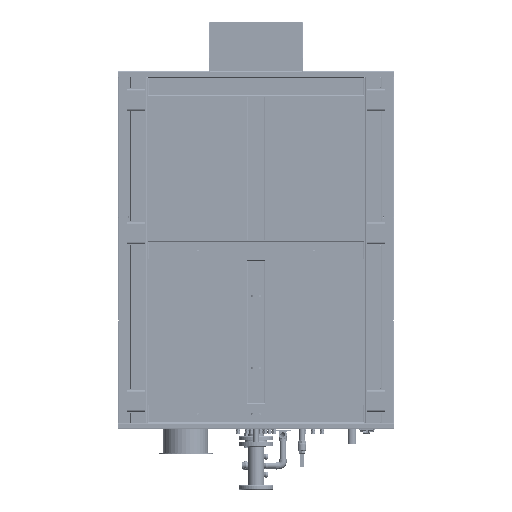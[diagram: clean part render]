
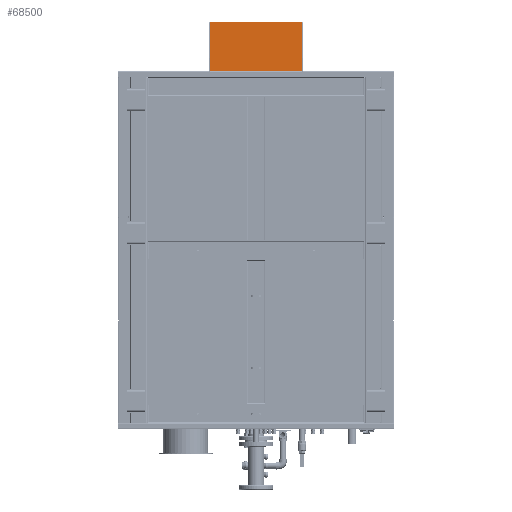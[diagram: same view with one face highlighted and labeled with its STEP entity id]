
A CAD part, front view. The second image highlights one B-rep face of the part: STEP entity #68500.
In plain terms, the highlighted planar face has unit normal (0, -1, 0) as drawn and (0, 0, -1) by its records, which use the part's own axes.
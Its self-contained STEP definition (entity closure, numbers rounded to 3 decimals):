
#54752 = ORIENTED_EDGE ( 'NONE', *, *, #459843, .F. ) ;
#64102 = VERTEX_POINT ( 'NONE', #355560 ) ;
#68500 = ADVANCED_FACE ( 'NONE', ( #677339 ), #536857, .F. ) ;
#102047 = ORIENTED_EDGE ( 'NONE', *, *, #711822, .F. ) ;
#102559 = LINE ( 'NONE', #401165, #734048 ) ;
#123821 = ORIENTED_EDGE ( 'NONE', *, *, #316221, .F. ) ;
#183898 = DIRECTION ( 'NONE',  ( 0., -1., 0. ) ) ;
#188004 = DIRECTION ( 'NONE',  ( 1., 0., 0. ) ) ;
#220411 = CARTESIAN_POINT ( 'NONE',  ( -254.75, -145.5, -1.5 ) ) ;
#241202 = DIRECTION ( 'NONE',  ( -1., 0., 0. ) ) ;
#252280 = DIRECTION ( 'NONE',  ( 0., 1., 0. ) ) ;
#259088 = LINE ( 'NONE', #535462, #316415 ) ;
#299344 = VERTEX_POINT ( 'NONE', #220411 ) ;
#316221 = EDGE_CURVE ( 'NONE', #701282, #299344, #102559, .T. ) ;
#316415 = VECTOR ( 'NONE', #241202, 1000. ) ;
#348081 = VECTOR ( 'NONE', #252280, 1000. ) ;
#355560 = CARTESIAN_POINT ( 'NONE',  ( 254.75, -145.5, -1.5 ) ) ;
#365683 = AXIS2_PLACEMENT_3D ( 'NONE', #868050, #523430, #468859 ) ;
#378509 = CARTESIAN_POINT ( 'NONE',  ( -256.679, -145.5, -1.5 ) ) ;
#381214 = CARTESIAN_POINT ( 'NONE',  ( -254.75, 147.5, -1.5 ) ) ;
#401165 = CARTESIAN_POINT ( 'NONE',  ( -254.75, 147.5, -1.5 ) ) ;
#412485 = EDGE_LOOP ( 'NONE', ( #54752, #123821, #707048, #102047 ) ) ;
#442801 = LINE ( 'NONE', #719372, #348081 ) ;
#459843 = EDGE_CURVE ( 'NONE', #299344, #64102, #736519, .T. ) ;
#468859 = DIRECTION ( 'NONE',  ( 1., 0., 0. ) ) ;
#523430 = DIRECTION ( 'NONE',  ( 0., 0., 1. ) ) ;
#535462 = CARTESIAN_POINT ( 'NONE',  ( 256.75, 147.5, -1.5 ) ) ;
#536857 = PLANE ( 'NONE',  #365683 ) ;
#646330 = EDGE_CURVE ( 'NONE', #856612, #701282, #259088, .T. ) ;
#677339 = FACE_OUTER_BOUND ( 'NONE', #412485, .T. ) ;
#701282 = VERTEX_POINT ( 'NONE', #381214 ) ;
#707048 = ORIENTED_EDGE ( 'NONE', *, *, #646330, .F. ) ;
#711822 = EDGE_CURVE ( 'NONE', #64102, #856612, #442801, .T. ) ;
#719372 = CARTESIAN_POINT ( 'NONE',  ( 254.75, -147.429, -1.5 ) ) ;
#734048 = VECTOR ( 'NONE', #183898, 1000. ) ;
#736519 = LINE ( 'NONE', #378509, #780134 ) ;
#780134 = VECTOR ( 'NONE', #188004, 1000. ) ;
#856612 = VERTEX_POINT ( 'NONE', #892164 ) ;
#868050 = CARTESIAN_POINT ( 'NONE',  ( 0., 0., -1.5 ) ) ;
#892164 = CARTESIAN_POINT ( 'NONE',  ( 254.75, 147.5, -1.5 ) ) ;
